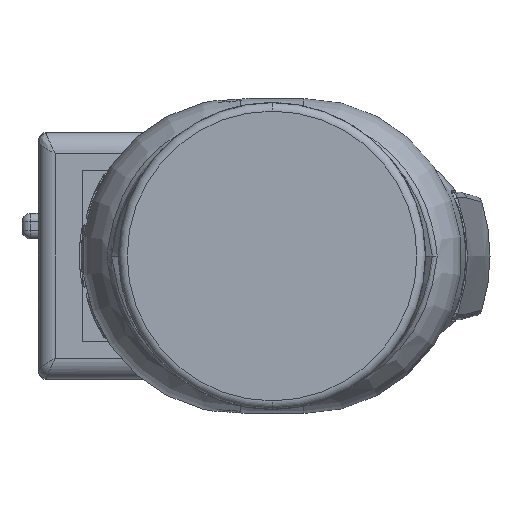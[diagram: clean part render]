
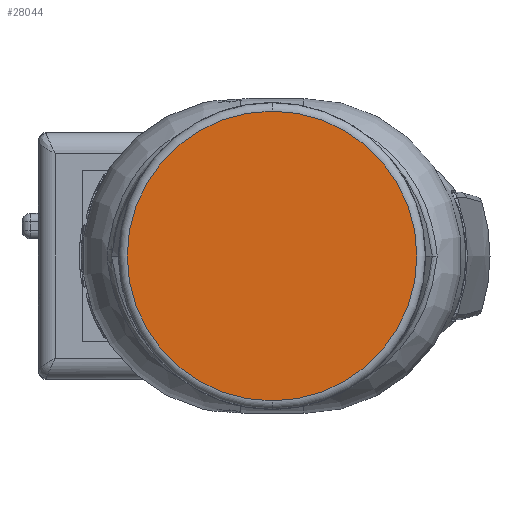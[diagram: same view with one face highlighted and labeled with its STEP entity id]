
A CAD part, left-side view. The second image highlights one B-rep face of the part: STEP entity #28044.
In plain terms, the highlighted planar face has unit normal (-1, 0, 0).
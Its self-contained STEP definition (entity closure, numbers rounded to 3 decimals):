
#166 = CIRCLE ( 'NONE', #37810, 17. ) ;
#7756 = PLANE ( 'NONE',  #51988 ) ;
#8962 = CARTESIAN_POINT ( 'NONE',  ( -203., -3.75, -17. ) ) ;
#10184 = CIRCLE ( 'NONE', #18700, 17. ) ;
#13460 = ORIENTED_EDGE ( 'NONE', *, *, #37512, .T. ) ;
#14712 = DIRECTION ( 'NONE',  ( 0., 0., -1. ) ) ;
#18700 = AXIS2_PLACEMENT_3D ( 'NONE', #28100, #52456, #44695 ) ;
#19673 = VERTEX_POINT ( 'NONE', #39467 ) ;
#21367 = EDGE_LOOP ( 'NONE', ( #13460, #25228 ) ) ;
#23940 = VERTEX_POINT ( 'NONE', #8962 ) ;
#24069 = CARTESIAN_POINT ( 'NONE',  ( -203., -3.75, 0. ) ) ;
#25228 = ORIENTED_EDGE ( 'NONE', *, *, #32070, .T. ) ;
#28044 = ADVANCED_FACE ( 'NONE', ( #47892 ), #7756, .F. ) ;
#28100 = CARTESIAN_POINT ( 'NONE',  ( -203., -3.75, 0. ) ) ;
#28543 = CARTESIAN_POINT ( 'NONE',  ( -203., -3.75, 0. ) ) ;
#32070 = EDGE_CURVE ( 'NONE', #19673, #23940, #10184, .T. ) ;
#35595 = DIRECTION ( 'NONE',  ( 1., 0., 0. ) ) ;
#37512 = EDGE_CURVE ( 'NONE', #23940, #19673, #166, .T. ) ;
#37810 = AXIS2_PLACEMENT_3D ( 'NONE', #28543, #52369, #52096 ) ;
#39467 = CARTESIAN_POINT ( 'NONE',  ( -203., -3.75, 17. ) ) ;
#44695 = DIRECTION ( 'NONE',  ( 0., 0., -1. ) ) ;
#47892 = FACE_OUTER_BOUND ( 'NONE', #21367, .T. ) ;
#51988 = AXIS2_PLACEMENT_3D ( 'NONE', #24069, #35595, #14712 ) ;
#52096 = DIRECTION ( 'NONE',  ( 0., 0., -1. ) ) ;
#52369 = DIRECTION ( 'NONE',  ( -1., 0., 0. ) ) ;
#52456 = DIRECTION ( 'NONE',  ( -1., 0., 0. ) ) ;
